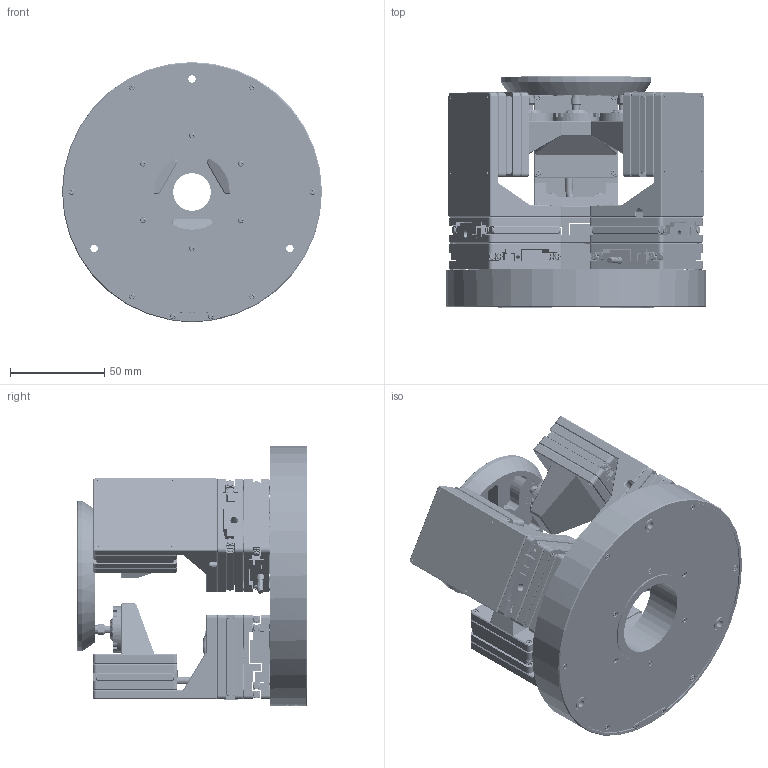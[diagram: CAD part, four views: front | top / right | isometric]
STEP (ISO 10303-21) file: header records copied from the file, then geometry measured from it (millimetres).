
FILE_DESCRIPTION (( 'STEP AP214' ), '1' );
FILE_NAME ('100134_ver4_GO_6-Axis.STEP', '2023-10-03T23:16:03', ( '' ), ( '' ), 'SwSTEP 2.0', 'SolidWorks 2021', '' );
FILE_SCHEMA (( 'AUTOMOTIVE_DESIGN' ));
Length unit declared in the file: millimetre
Products named in the file (1): 100134_ver4_GO_6-Axis
Bounding box: 138 x 122.5 x 138 mm (x, y, z)
Volume: 510225 mm3; surface area: 329673.1 mm2
Topology: 253 solids, 253 shells, 14947 faces, 36306 edges, 21807 vertices
Faces by surface type: plane 7243, cylinder 4295, cone 2542, sphere 624, torus 216, bspline 27
Entity records: 594267 total; most frequent: CARTESIAN_POINT 80865, DIRECTION 74739, ORIENTED_EDGE 68710, EDGE_CURVE 34355, AXIS2_PLACEMENT_3D 27389, VERTEX_POINT 21372, VECTOR 19961, LINE 19961
